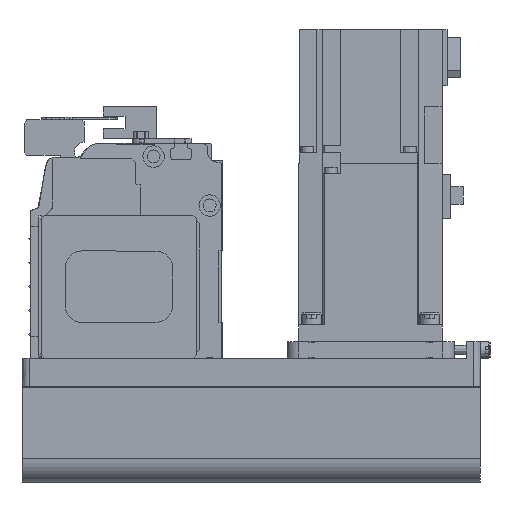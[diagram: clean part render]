
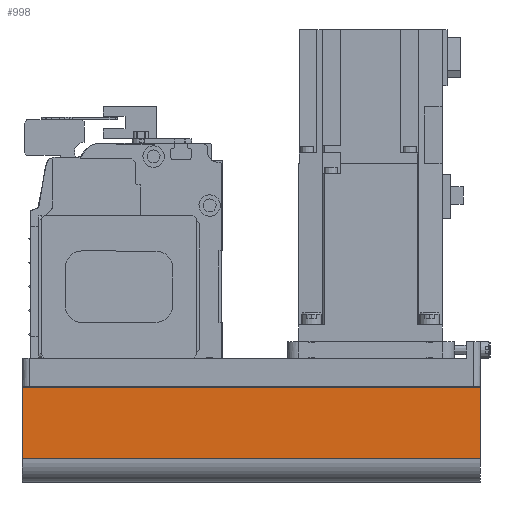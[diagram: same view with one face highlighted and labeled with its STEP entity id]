
A CAD part, left-side view. The second image highlights one B-rep face of the part: STEP entity #998.
In plain terms, the highlighted planar face has unit normal (-1, 0, 0) as drawn and (0, 1, 0) by its records, which use the part's own axes.
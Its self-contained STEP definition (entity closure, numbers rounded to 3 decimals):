
#998 = ADVANCED_FACE( '', ( #2660 ), #2661, .T. );
#2660 = FACE_OUTER_BOUND( '', #5292, .T. );
#2661 = PLANE( '', #5293 );
#5292 = EDGE_LOOP( '', ( #8147, #8148, #8149, #8150 ) );
#5293 = AXIS2_PLACEMENT_3D( '', #8151, #8152, #8153 );
#8147 = ORIENTED_EDGE( '', *, *, #14818, .F. );
#8148 = ORIENTED_EDGE( '', *, *, #14819, .F. );
#8149 = ORIENTED_EDGE( '', *, *, #14820, .T. );
#8150 = ORIENTED_EDGE( '', *, *, #14821, .T. );
#8151 = CARTESIAN_POINT( '', ( -192., 40., -42. ) );
#8152 = DIRECTION( '', ( 0., 1., 0. ) );
#8153 = DIRECTION( '', ( 0., 0., 1. ) );
#14818 = EDGE_CURVE( '', #17613, #17614, #17615, .T. );
#14819 = EDGE_CURVE( '', #17616, #17613, #17617, .T. );
#14820 = EDGE_CURVE( '', #17616, #17618, #17619, .T. );
#14821 = EDGE_CURVE( '', #17618, #17614, #17620, .T. );
#17613 = VERTEX_POINT( '', #21602 );
#17614 = VERTEX_POINT( '', #21603 );
#17615 = LINE( '', #21604, #21605 );
#17616 = VERTEX_POINT( '', #21606 );
#17617 = LINE( '', #21607, #21608 );
#17618 = VERTEX_POINT( '', #21609 );
#17619 = LINE( '', #21610, #21611 );
#17620 = LINE( '', #21612, #21613 );
#21602 = CARTESIAN_POINT( '', ( 0., 40., -42. ) );
#21603 = CARTESIAN_POINT( '', ( 0., 40., -12.1 ) );
#21604 = CARTESIAN_POINT( '', ( 0., 40., -42. ) );
#21605 = VECTOR( '', #26439, 1000. );
#21606 = CARTESIAN_POINT( '', ( -192., 40., -42. ) );
#21607 = CARTESIAN_POINT( '', ( -192., 40., -42. ) );
#21608 = VECTOR( '', #26440, 1000. );
#21609 = CARTESIAN_POINT( '', ( -192., 40., -12.1 ) );
#21610 = CARTESIAN_POINT( '', ( -192., 40., -42. ) );
#21611 = VECTOR( '', #26441, 1000. );
#21612 = CARTESIAN_POINT( '', ( -192., 40., -12.1 ) );
#21613 = VECTOR( '', #26442, 1000. );
#26439 = DIRECTION( '', ( 0., 0., 1. ) );
#26440 = DIRECTION( '', ( 1., 0., 0. ) );
#26441 = DIRECTION( '', ( 0., 0., 1. ) );
#26442 = DIRECTION( '', ( 1., 0., 0. ) );
